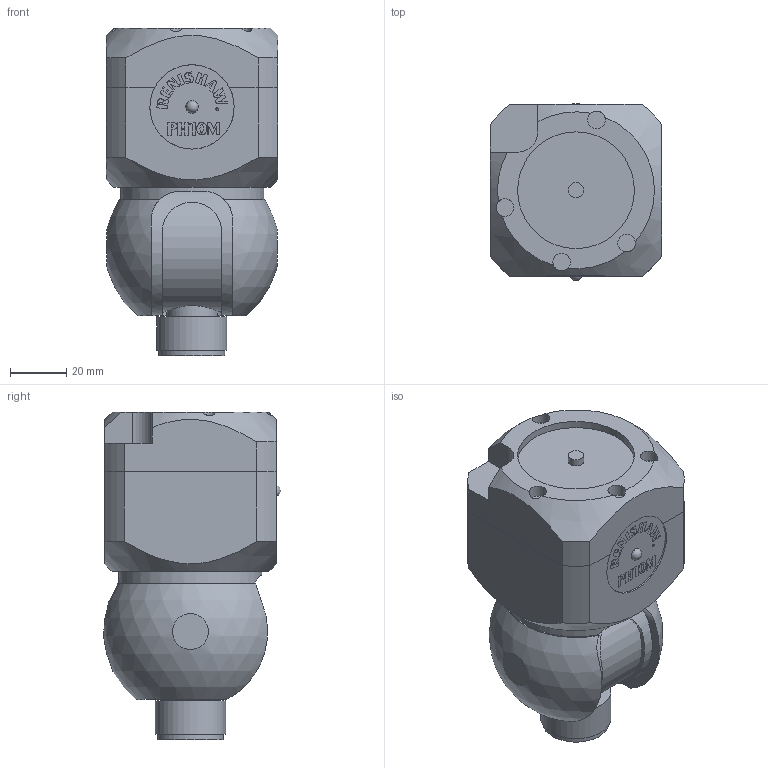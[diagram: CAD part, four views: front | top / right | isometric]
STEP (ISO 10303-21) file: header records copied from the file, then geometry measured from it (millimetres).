
FILE_DESCRIPTION(/* description */ (''),/* implementation_level */ '2;1');
FILE_NAME(/* name */ 'LA-1025-0050#-B.stp',/* time_stamp */ '2013-01-03T13:29:39+00:00',/* author */ (''),/* organization */ (''),/* preprocessor_version */ 'ST-DEVELOPER v11',/* originating_system */ 'SIEMENS PLM Software NX 7.5',/* authorisation */ '');
FILE_SCHEMA (('AUTOMOTIVE_DESIGN { 1 0 10303 214 1 1 1 1 }'));
Length unit declared in the file: millimetre
Products named in the file (1): rt130E571g76
Bounding box: 61 x 62.99 x 116.62 mm (x, y, z)
Volume: 308236.2 mm3; surface area: 48801.4 mm2
Topology: 3 solids, 5 shells, 112 faces, 388 edges, 312 vertices
Faces by surface type: plane 65, cylinder 42, cone 3, sphere 2
Full cylindrical faces by diameter (mm): 5.5 x1, 6.25 x4, 8.15 x1, 16.94 x1, 17.8 x1, 23.5 x1, 24.95 x1, 30 x2, 41.52 x1, 45 x2, 50.95 x1, 52.85 x1
Entity records: 5320 total; most frequent: CARTESIAN_POINT 1396, ORIENTED_EDGE 708, DIRECTION 547, EDGE_CURVE 354, VERTEX_POINT 298, AXIS2_PLACEMENT_3D 206, EDGE_LOOP 160, LINE 135
